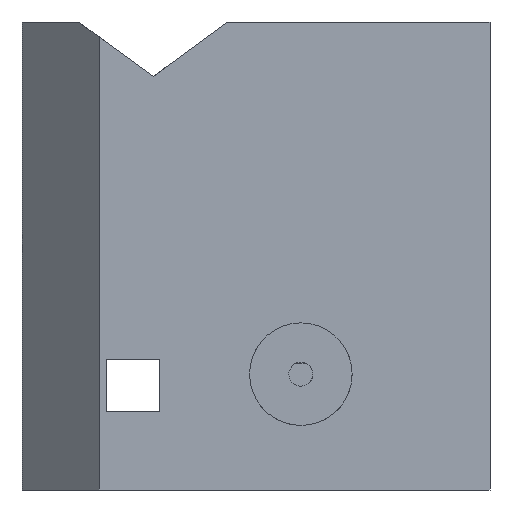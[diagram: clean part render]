
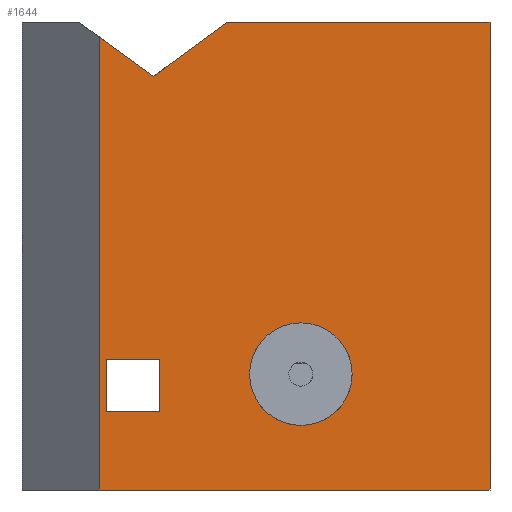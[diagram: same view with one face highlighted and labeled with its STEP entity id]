
A CAD part, front view. The second image highlights one B-rep face of the part: STEP entity #1644.
In plain terms, the highlighted planar face has unit normal (0, -1, 0).
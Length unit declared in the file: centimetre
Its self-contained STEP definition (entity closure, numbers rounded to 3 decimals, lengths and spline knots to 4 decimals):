
#1 = CARTESIAN_POINT ( 'NONE',  ( 165.0674, 0., 967.7146 ) ) ;
#22 = EDGE_CURVE ( 'NONE', #1625, #271, #495, .T. ) ;
#38 = CARTESIAN_POINT ( 'NONE',  ( 0., 0., 1000. ) ) ;
#50 = DIRECTION ( 'NONE',  ( 0., 0., -1. ) ) ;
#104 = CARTESIAN_POINT ( 'NONE',  ( 0., 0., 0. ) ) ;
#122 = ORIENTED_EDGE ( 'NONE', *, *, #487, .F. ) ;
#128 = DIRECTION ( 'NONE',  ( 1., 0., 0. ) ) ;
#139 = CARTESIAN_POINT ( 'NONE',  ( 595.8908, 0., 247.4693 ) ) ;
#169 = CARTESIAN_POINT ( 'NONE',  ( 165.0674, 0., 1000. ) ) ;
#187 = VERTEX_POINT ( 'NONE', #1175 ) ;
#199 = DIRECTION ( 'NONE',  ( 1., 0., 0. ) ) ;
#210 = VECTOR ( 'NONE', #660, 100. ) ;
#226 = EDGE_CURVE ( 'NONE', #1015, #739, #852, .T. ) ;
#238 = EDGE_LOOP ( 'NONE', ( #1711, #1269, #1677, #122 ) ) ;
#260 = CARTESIAN_POINT ( 'NONE',  ( 294.7441, 0., 277.966 ) ) ;
#271 = VERTEX_POINT ( 'NONE', #774 ) ;
#285 = ORIENTED_EDGE ( 'NONE', *, *, #22, .F. ) ;
#360 = LINE ( 'NONE', #2161, #1856 ) ;
#395 = DIRECTION ( 'NONE',  ( 0., 0., 1. ) ) ;
#482 = ORIENTED_EDGE ( 'NONE', *, *, #610, .T. ) ;
#487 = EDGE_CURVE ( 'NONE', #754, #902, #1021, .T. ) ;
#495 = CIRCLE ( 'NONE', #1332, 109.5914 ) ;
#521 = DIRECTION ( 'NONE',  ( -0.808, 0., -0.589 ) ) ;
#532 = DIRECTION ( 'NONE',  ( -1., 0., 0. ) ) ;
#540 = EDGE_CURVE ( 'NONE', #1447, #892, #360, .T. ) ;
#550 = ORIENTED_EDGE ( 'NONE', *, *, #226, .T. ) ;
#570 = CARTESIAN_POINT ( 'NONE',  ( 165.0674, 0., 0. ) ) ;
#595 = PLANE ( 'NONE',  #1448 ) ;
#602 = VECTOR ( 'NONE', #1668, 100. ) ;
#610 = EDGE_CURVE ( 'NONE', #739, #2164, #1961, .T. ) ;
#647 = EDGE_CURVE ( 'NONE', #271, #1625, #806, .T. ) ;
#660 = DIRECTION ( 'NONE',  ( -0.808, 0., 0.589 ) ) ;
#698 = DIRECTION ( 'NONE',  ( 0., 0., 1. ) ) ;
#699 = LINE ( 'NONE', #1697, #1905 ) ;
#711 = CARTESIAN_POINT ( 'NONE',  ( 294.7441, 0., 168.4411 ) ) ;
#739 = VERTEX_POINT ( 'NONE', #570 ) ;
#754 = VERTEX_POINT ( 'NONE', #711 ) ;
#759 = CARTESIAN_POINT ( 'NONE',  ( 595.8908, 0., 137.8778 ) ) ;
#774 = CARTESIAN_POINT ( 'NONE',  ( 595.8908, 0., 357.0607 ) ) ;
#806 = CIRCLE ( 'NONE', #848, 109.5914 ) ;
#816 = ORIENTED_EDGE ( 'NONE', *, *, #647, .F. ) ;
#848 = AXIS2_PLACEMENT_3D ( 'NONE', #1454, #1118, #1282 ) ;
#852 = LINE ( 'NONE', #169, #602 ) ;
#856 = CARTESIAN_POINT ( 'NONE',  ( 440.1385, 0., 1000. ) ) ;
#857 = ORIENTED_EDGE ( 'NONE', *, *, #540, .T. ) ;
#863 = DIRECTION ( 'NONE',  ( 0., 0., -1. ) ) ;
#876 = VECTOR ( 'NONE', #698, 100. ) ;
#888 = FACE_BOUND ( 'NONE', #238, .T. ) ;
#891 = VECTOR ( 'NONE', #1927, 100. ) ;
#892 = VERTEX_POINT ( 'NONE', #1091 ) ;
#902 = VERTEX_POINT ( 'NONE', #260 ) ;
#979 = CARTESIAN_POINT ( 'NONE',  ( 180.5097, 0., 277.966 ) ) ;
#997 = EDGE_LOOP ( 'NONE', ( #857, #1932, #550, #482, #1040, #1660 ) ) ;
#1015 = VERTEX_POINT ( 'NONE', #1 ) ;
#1021 = LINE ( 'NONE', #1323, #876 ) ;
#1028 = CARTESIAN_POINT ( 'NONE',  ( 180.5097, 0., 168.4411 ) ) ;
#1037 = CARTESIAN_POINT ( 'NONE',  ( 1000., 0., 0. ) ) ;
#1040 = ORIENTED_EDGE ( 'NONE', *, *, #1639, .F. ) ;
#1051 = LINE ( 'NONE', #1411, #1316 ) ;
#1069 = VECTOR ( 'NONE', #532, 100. ) ;
#1084 = LINE ( 'NONE', #1742, #891 ) ;
#1091 = CARTESIAN_POINT ( 'NONE',  ( 280.4684, 0., 883.5529 ) ) ;
#1118 = DIRECTION ( 'NONE',  ( 0., -1., 0. ) ) ;
#1135 = CARTESIAN_POINT ( 'NONE',  ( 180.5097, 0., 277.966 ) ) ;
#1146 = LINE ( 'NONE', #979, #1069 ) ;
#1175 = CARTESIAN_POINT ( 'NONE',  ( 180.5097, 0., 168.4411 ) ) ;
#1256 = DIRECTION ( 'NONE',  ( 0., 1., 0. ) ) ;
#1265 = EDGE_CURVE ( 'NONE', #892, #1015, #1915, .T. ) ;
#1269 = ORIENTED_EDGE ( 'NONE', *, *, #2002, .F. ) ;
#1281 = DIRECTION ( 'NONE',  ( 0., -1., 0. ) ) ;
#1282 = DIRECTION ( 'NONE',  ( 0., 0., -1. ) ) ;
#1287 = VERTEX_POINT ( 'NONE', #1135 ) ;
#1309 = DIRECTION ( 'NONE',  ( 0., 0., -1. ) ) ;
#1316 = VECTOR ( 'NONE', #50, 100. ) ;
#1323 = CARTESIAN_POINT ( 'NONE',  ( 294.7441, 0., 168.4411 ) ) ;
#1332 = AXIS2_PLACEMENT_3D ( 'NONE', #139, #1281, #1309 ) ;
#1411 = CARTESIAN_POINT ( 'NONE',  ( 1000., 0., 1000. ) ) ;
#1416 = EDGE_CURVE ( 'NONE', #902, #1287, #1146, .T. ) ;
#1447 = VERTEX_POINT ( 'NONE', #856 ) ;
#1448 = AXIS2_PLACEMENT_3D ( 'NONE', #38, #1256, #395 ) ;
#1454 = CARTESIAN_POINT ( 'NONE',  ( 595.8908, 0., 247.4693 ) ) ;
#1541 = FACE_OUTER_BOUND ( 'NONE', #997, .T. ) ;
#1581 = EDGE_CURVE ( 'NONE', #187, #754, #699, .T. ) ;
#1586 = VECTOR ( 'NONE', #863, 100. ) ;
#1625 = VERTEX_POINT ( 'NONE', #759 ) ;
#1639 = EDGE_CURVE ( 'NONE', #1973, #2164, #1051, .T. ) ;
#1644 = ADVANCED_FACE ( 'NONE', ( #2091, #888, #1541 ), #595, .F. ) ;
#1649 = EDGE_CURVE ( 'NONE', #1447, #1973, #1084, .T. ) ;
#1653 = CARTESIAN_POINT ( 'NONE',  ( 1000., 0., 1000. ) ) ;
#1660 = ORIENTED_EDGE ( 'NONE', *, *, #1649, .F. ) ;
#1668 = DIRECTION ( 'NONE',  ( 0., 0., -1. ) ) ;
#1673 = LINE ( 'NONE', #1028, #1586 ) ;
#1677 = ORIENTED_EDGE ( 'NONE', *, *, #1416, .F. ) ;
#1697 = CARTESIAN_POINT ( 'NONE',  ( 180.5097, 0., 168.4411 ) ) ;
#1711 = ORIENTED_EDGE ( 'NONE', *, *, #1581, .F. ) ;
#1742 = CARTESIAN_POINT ( 'NONE',  ( 0., 0., 1000. ) ) ;
#1856 = VECTOR ( 'NONE', #521, 100. ) ;
#1905 = VECTOR ( 'NONE', #199, 100. ) ;
#1915 = LINE ( 'NONE', #2153, #210 ) ;
#1927 = DIRECTION ( 'NONE',  ( 1., 0., 0. ) ) ;
#1932 = ORIENTED_EDGE ( 'NONE', *, *, #1265, .T. ) ;
#1961 = LINE ( 'NONE', #104, #2140 ) ;
#1973 = VERTEX_POINT ( 'NONE', #1653 ) ;
#2002 = EDGE_CURVE ( 'NONE', #1287, #187, #1673, .T. ) ;
#2091 = FACE_BOUND ( 'NONE', #2112, .T. ) ;
#2112 = EDGE_LOOP ( 'NONE', ( #285, #816 ) ) ;
#2140 = VECTOR ( 'NONE', #128, 100. ) ;
#2153 = CARTESIAN_POINT ( 'NONE',  ( 120.7983, 0., 1000. ) ) ;
#2161 = CARTESIAN_POINT ( 'NONE',  ( 280.4684, 0., 883.5529 ) ) ;
#2164 = VERTEX_POINT ( 'NONE', #1037 ) ;
